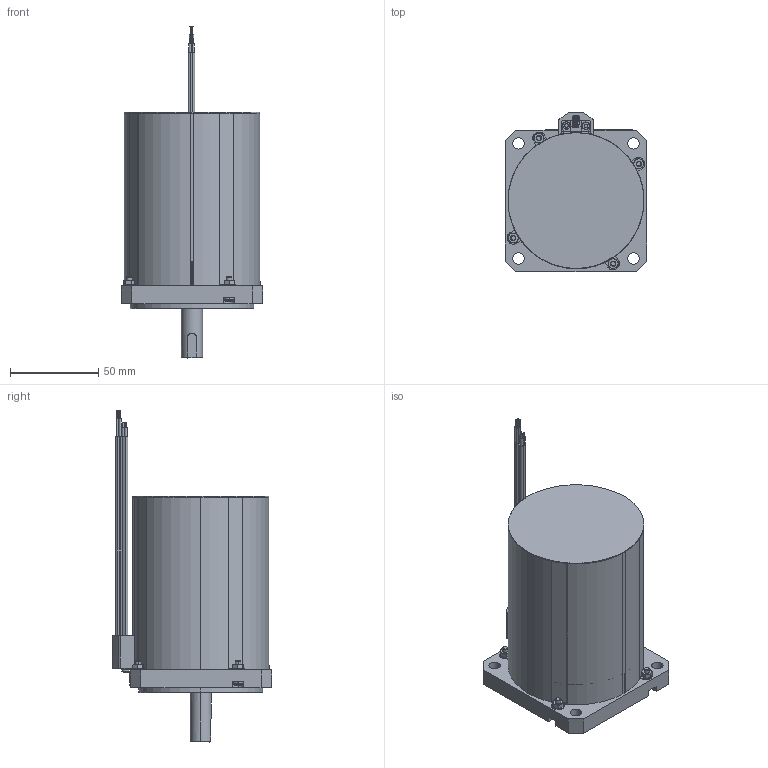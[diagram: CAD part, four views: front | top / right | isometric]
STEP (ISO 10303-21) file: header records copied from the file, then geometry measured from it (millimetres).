
FILE_DESCRIPTION (( 'STEP AP214' ), '1' );
FILE_NAME ('CPHB80F（メッシュなし）外形図.STEP', '2019-06-14T05:18:10', ( '' ), ( '' ), 'SwSTEP 2.0', 'SolidWorks 2016', '' );
FILE_SCHEMA (( 'AUTOMOTIVE_DESIGN' ));
Length unit declared in the file: millimetre
Products named in the file (1): CPHB80F（メッシュなし）外形図
Bounding box: 80 x 90.05 x 187.7 mm (x, y, z)
Volume: 517561.9 mm3; surface area: 63470.4 mm2
Topology: 1 solids, 3 shells, 845 faces, 2292 edges, 1479 vertices
Faces by surface type: plane 393, cylinder 331, cone 82, torus 20, bspline 17, sphere 2
Entity records: 34205 total; most frequent: CARTESIAN_POINT 6712, DIRECTION 4593, ORIENTED_EDGE 4572, EDGE_CURVE 2286, AXIS2_PLACEMENT_3D 1703, VERTEX_POINT 1479, LINE 1187, VECTOR 1187
